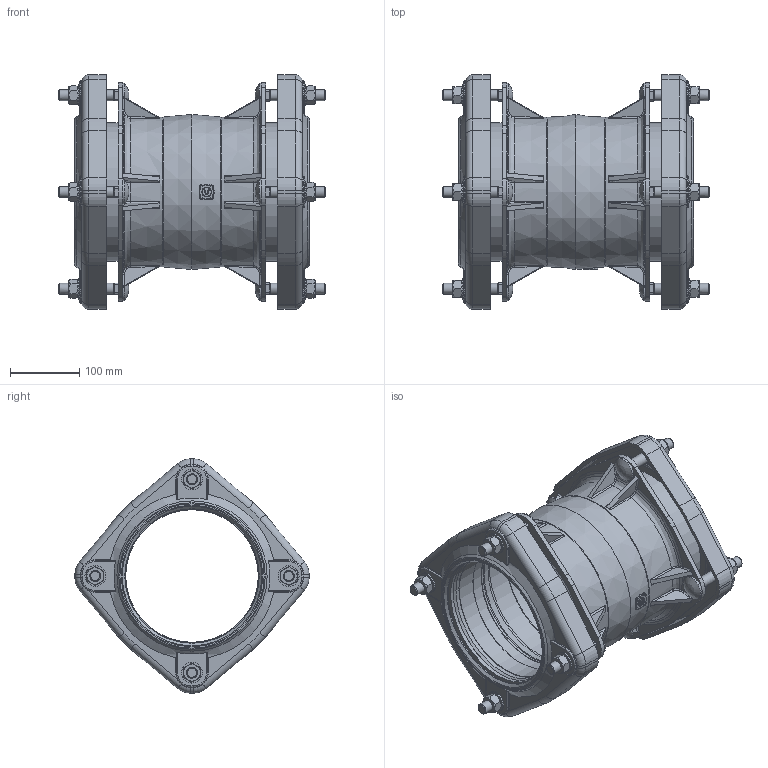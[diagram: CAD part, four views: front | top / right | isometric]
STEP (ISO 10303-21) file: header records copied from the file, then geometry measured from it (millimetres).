
FILE_DESCRIPTION((''),'2;1');
FILE_NAME('P:\Fastrack\54361_VIKING JOHNSON 3D\ULTRAGRIP\Component Parts\Components Built up\Coupling Assembly\150MM-UltraGrip-Coupling-Assembly.stp','2012-05-01T15:49:43',('dcole'),(''),'Autodesk Inventor 2008','Autodesk Inventor 2008','');
FILE_SCHEMA(('AUTOMOTIVE_DESIGN { 1 0 10303 214 1 1 1 1 }'));
Length unit declared in the file: millimetre
Products named in the file (1): 150MM-UltraGrip-Coupling-Assembly
Bounding box: 386 x 338.8 x 338.8 mm (x, y, z)
Volume: 2802414.6 mm3; surface area: 912415 mm2
Topology: 1 solids, 1 shells, 1586 faces, 4077 edges, 2558 vertices
Faces by surface type: plane 692, cylinder 349, bspline 332, cone 150, torus 63
Full cylindrical faces by diameter (mm): 13 x1, 15.7 x16, 16 x8, 30 x8, 35.2 x8, 191.7 x2, 193.7 x6, 201 x2, 241.07 x2
Entity records: 68544 total; most frequent: CARTESIAN_POINT 30497, ORIENTED_EDGE 7778, DIRECTION 7157, EDGE_CURVE 3889, AXIS2_PLACEMENT_3D 2576, VERTEX_POINT 2497, VECTOR 2005, LINE 2005
